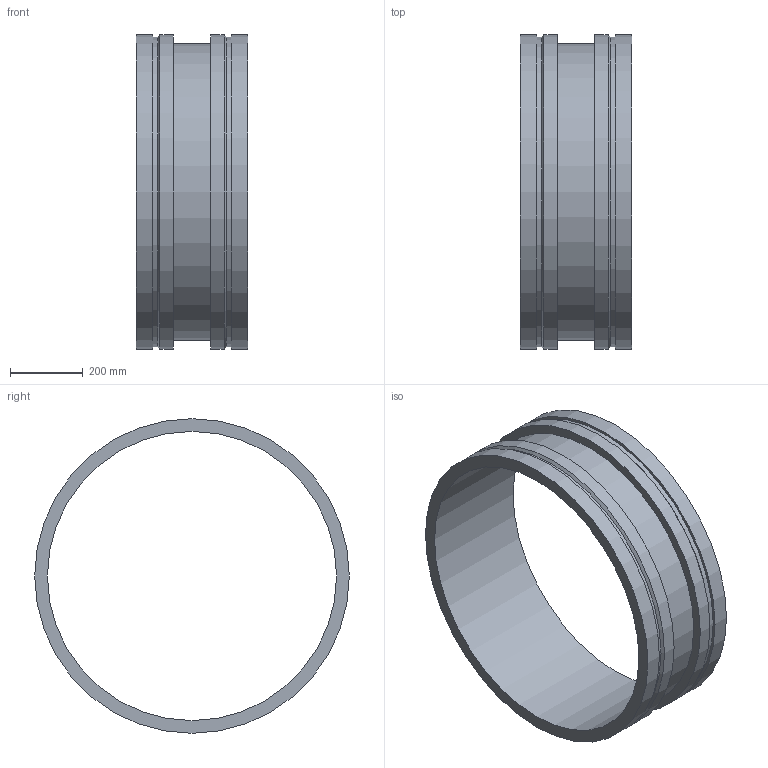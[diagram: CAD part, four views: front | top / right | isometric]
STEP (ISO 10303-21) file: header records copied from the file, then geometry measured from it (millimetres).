
FILE_DESCRIPTION(/* description */ ('VIC ADAPTER NIPPLE No W43 VR','CAx-IF Rec.Pracs.---Representation and Presentation of Product Manufacturing Information (PMI)---4.0---2014-10-13'),/* implementation_level */ '2;1');
FILE_NAME(/* name */ 'C:\Users\kkamble\AppData\Roaming\Autodesk\ApplicationPlugins\Back Up\Victaulic_Vic-Ring_Adapter Nipple_No W43 VR (AGR)\Victaulic_Vic-Ring_Adapter Nipple_No W43 VR (AGR)_32 (800).stp',/* time_stamp */ '2020-09-10T11:31:35+05:00',/* author */ ('cps_temp'),/* organization */ ('Victaulic'),/* preprocessor_version */ 'ST-DEVELOPER v17.2',/* originating_system */ 'Autodesk Inventor 2019',/* authorisation */ '');
FILE_SCHEMA (('AP242_MANAGED_MODEL_BASED_3D_ENGINEERING_MIM_LF { 1 0 10303 442 1 1 4 }'));
Length unit declared in the file: inch
Products named in the file (1): W43 VR-32.0
Bounding box: 304.8 x 863.6 x 863.6 mm (x, y, z)
Volume: 20269636.3 mm3; surface area: 1942009.9 mm2
Topology: 1 solids, 1 shells, 16 faces, 42 edges, 32 vertices
Faces by surface type: cylinder 8, plane 6, cone 2
Full cylindrical faces by diameter (mm): 793.75 x1, 812.8 x1, 849.122 x2, 863.6 x4
Entity records: 686 total; most frequent: DIRECTION 134, CARTESIAN_POINT 108, ORIENTED_EDGE 84, AXIS2_PLACEMENT_3D 62, EDGE_CURVE 42, CIRCLE 32, VERTEX_POINT 32, EDGE_LOOP 22
